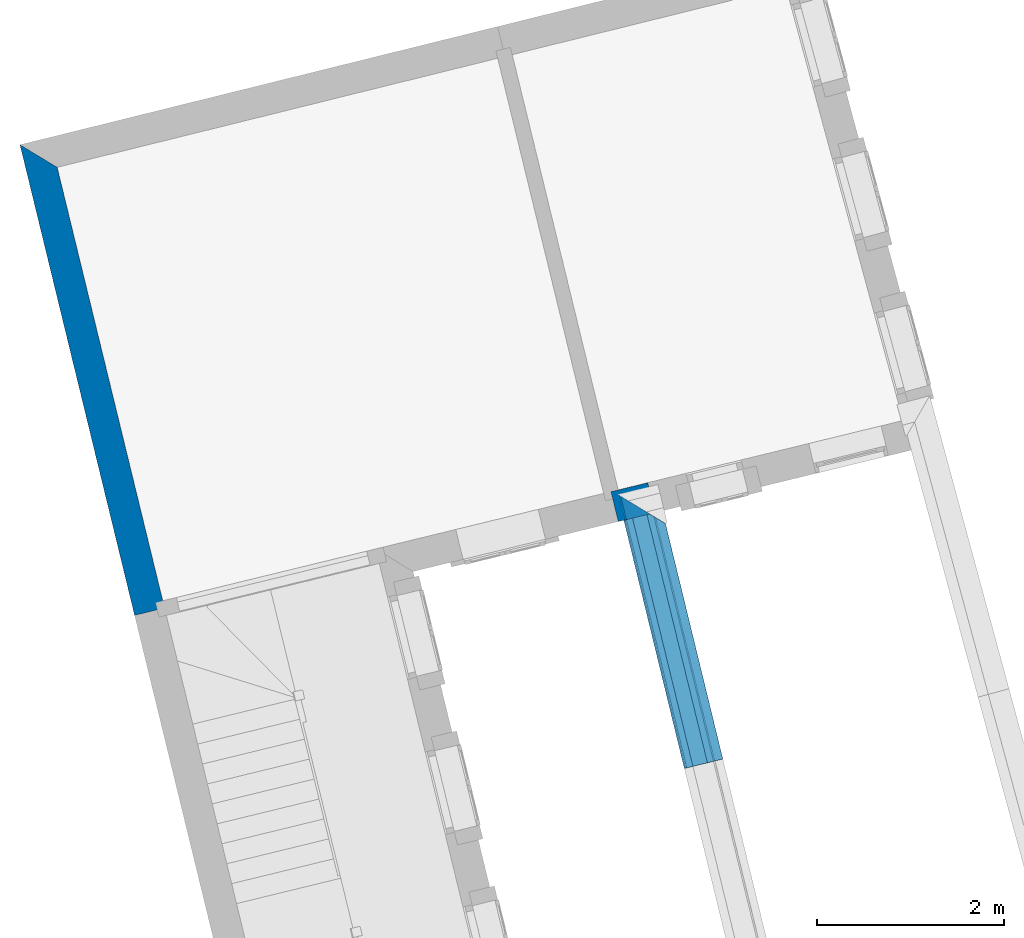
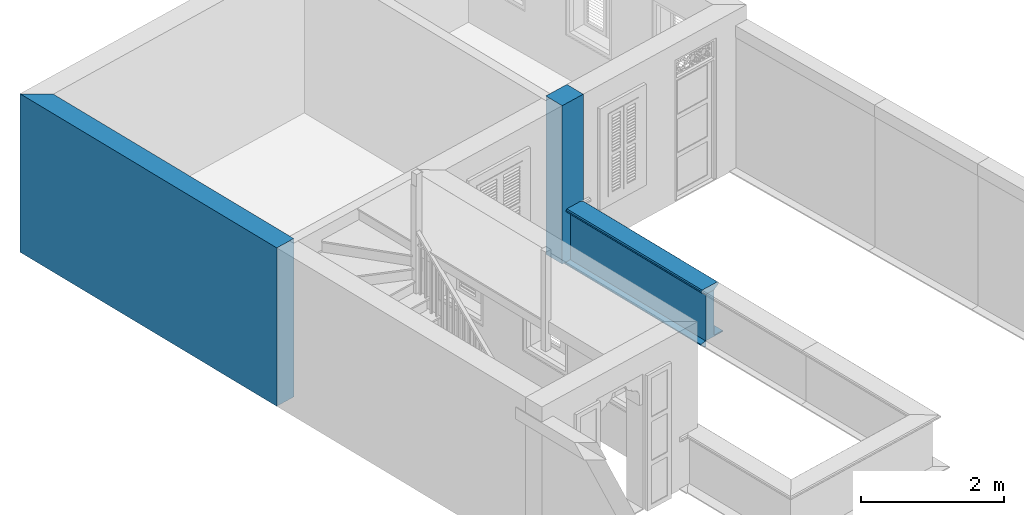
# One storey, part 5 of 9: 5 walls.
"""IFC4 building model written with IfcOpenShell, lengths in metres."""

from ifc_helpers import new_model, si_unit, frame, origin_with_axes, place, context, subcontext, project, spatial, polyline, outline, extrude, clip, halfspace, material, layer, layer_set, layer_usage, material_profile, profile_set, profile_usage, type_object, element, save


model = new_model("IFC4")

# Units and contexts
model_context = context("Model", 3, world=origin_with_axes())
body_context = subcontext(model_context, "Body", "Model", "MODEL_VIEW")
ifc_project = project(units=[si_unit("PLANEANGLEUNIT", "RADIAN"), si_unit("MASSUNIT", "GRAM", prefix="KILO"), si_unit("FORCEUNIT", "NEWTON", prefix="KILO"), si_unit("LENGTHUNIT", "METRE"), si_unit("AREAUNIT", "SQUARE_METRE"), si_unit("VOLUMEUNIT", "CUBIC_METRE")], contexts=[model_context, model_context])

# Site, building, storey
site_placement = place(None, origin_with_axes())
site = spatial("IfcSite", under=ifc_project, at=site_placement, Name="Site plot-4", CompositionType="ELEMENT")
building_placement = place(None, origin_with_axes())
building = spatial("IfcBuilding", under=site, at=building_placement, Name="Building plot-4", CompositionType="ELEMENT")
storey_placement = place(None, frame((0.0, 0.0, 2.7), z_axis=(0.0, 0.0, 1.0), x_axis=(1.0, 0.0, 0.0)))
storey = spatial("IfcBuildingStorey", under=building, at=storey_placement, Name="plot-4 1", CompositionType="ELEMENT", Elevation=2.7)

# Walls
ifc_material_1 = material(Name="Masonry")
ifc_layer_1 = layer(ifc_material_1, 0.33, ventilated=False)
ifc_layer_set_1 = layer_set([ifc_layer_1], Name="exterior_0.08_0.25")
ifc_layer_usage_1 = layer_usage(ifc_layer_set_1, "AXIS2", "POSITIVE", -0.25)
wall_type_1 = type_object("IfcWallType", Name="exterior_0.08_0.25", PredefinedType="SOLIDWALL", material=ifc_layer_set_1)
wall_1_placement = place(storey_placement, frame((23.4069703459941, 15.6198881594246, 0.0), z_axis=(0.0, 0.0, 1.0), x_axis=(0.971605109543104, 0.236608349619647, 0.0)))
element("IfcWall", 1, at=wall_1_placement, inside=storey, type_object=wall_type_1, material=ifc_layer_usage_1, Name="exterior", context=body_context, shape_type="SweptSolid", body=[
    extrude(outline(polyline([(3.34444944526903e-15, 0.0799999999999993), (-1.1697544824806e-14, -0.249999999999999), (0.407279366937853, -0.25), (0.407279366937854, 0.0800000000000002), (3.34444944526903e-15, 0.0799999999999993)])), origin_with_axes(), (0.0, 0.0, 1.0), 2.7),
])
ifc_material_2 = material(Name="Masonry")
ifc_layer_2 = layer(ifc_material_2, 0.33, ventilated=False)
ifc_layer_set_2 = layer_set([ifc_layer_2], Name="party_0.08_0.25")
ifc_layer_usage_2 = layer_usage(ifc_layer_set_2, "AXIS2", "POSITIVE", -0.25)
wall_type_2 = type_object("IfcWallType", Name="party_0.08_0.25", PredefinedType="SOLIDWALL", material=ifc_layer_set_2)
wall_2_placement = place(storey_placement, frame((17.3563135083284, 19.233189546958, 0.0), z_axis=(0.0, 0.0, 1.0), x_axis=(0.236608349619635, -0.971605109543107, 0.0)))
element("IfcWall", 2, at=wall_2_placement, inside=storey, type_object=wall_type_2, material=ifc_layer_usage_2, Name="party", context=body_context, shape_type="SweptSolid", body=[
    extrude(outline(polyline([(0.0797005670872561, 0.0800000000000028), (-0.249064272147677, -0.250000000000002), (4.94233801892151, -0.25), (4.94233801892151, 0.0799999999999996), (0.0797005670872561, 0.0800000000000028)])), origin_with_axes(), (0.0, 0.0, 1.0), 2.7),
])
ifc_material_profile_1 = material_profile(None, outline(polyline([(0.25, 0.0), (0.25, 0.795), (0.09, 0.795), (0.09, 0.02), (-0.08, 0.02), (-0.08, 0.0), (0.25, 0.0)])))
ifc_profile_set_1 = profile_set([ifc_material_profile_1])
ifc_profile_usage_1 = profile_usage(ifc_profile_set_1)
wall_type_3 = type_object("IfcWallType", Name="parapet internal_0", PredefinedType="PARAPET", material=ifc_profile_set_1)
wall_3_placement = place(storey_placement, frame((24.7463891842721, 11.8410408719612, 0.0), z_axis=(-0.236608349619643, 0.971605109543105, 0.0), x_axis=(-0.971605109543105, -0.236608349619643, 0.0)))
element("IfcWall", 3, at=wall_3_placement, inside=storey, type_object=wall_type_3, material=ifc_profile_usage_1, Name="parapet internal_0", context=body_context, shape_type="Clipping", body=[
    clip(clip(extrude(outline(polyline([(0.25, 0.0), (0.25, 0.795), (0.09, 0.795), (0.09, 0.02), (-0.08, 0.02), (-0.08, 0.0), (0.25, 0.0)])), origin_with_axes(), (0.0, 0.0, 1.0), 4.67846501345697), halfspace(frame((0.0, 0.0, 3.67846501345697), z_axis=(0.707106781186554, 0.0, -0.707106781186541), x_axis=(0.0, 1.0, 0.0)), True)), halfspace(frame((0.0, 0.0, 1.0), z_axis=(1.60812264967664e-16, 0.0, -1.0), x_axis=(0.0, 1.0, 0.0)), False)),
])
ifc_material_profile_2 = material_profile(None, outline(polyline([(0.265, 0.795), (0.268, 0.807), (0.274, 0.816), (0.283, 0.822), (0.295, 0.825), (0.295, 0.84), (0.305, 0.84), (0.317, 0.842), (0.326, 0.849), (0.333, 0.858), (0.335, 0.87), (0.333, 0.882), (0.326, 0.891), (0.317, 0.898), (0.305, 0.9), (0.035, 0.9), (0.023, 0.898), (0.014, 0.891), (0.007, 0.882), (0.005, 0.87), (0.007, 0.858), (0.014, 0.849), (0.023, 0.842), (0.035, 0.84), (0.045, 0.84), (0.045, 0.825), (0.057, 0.822), (0.066, 0.816), (0.072, 0.807), (0.075, 0.795), (0.265, 0.795)])))
ifc_profile_set_2 = profile_set([ifc_material_profile_2])
ifc_profile_usage_2 = profile_usage(ifc_profile_set_2)
wall_type_4 = type_object("IfcWallType", Name="parapet internal_1", PredefinedType="PARAPET", material=ifc_profile_set_2)
wall_4_placement = place(storey_placement, frame((24.7463891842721, 11.8410408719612, 0.0), z_axis=(-0.236608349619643, 0.971605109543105, 0.0), x_axis=(-0.971605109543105, -0.236608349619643, 0.0)))
element("IfcWall", 4, at=wall_4_placement, inside=storey, type_object=wall_type_4, material=ifc_profile_usage_2, Name="parapet internal_1", context=body_context, shape_type="Clipping", body=[
    clip(clip(extrude(outline(polyline([(0.265, 0.795), (0.268, 0.807), (0.274, 0.816), (0.283, 0.822), (0.295, 0.825), (0.295, 0.84), (0.305, 0.84), (0.317, 0.842), (0.326, 0.849), (0.333, 0.858), (0.335, 0.87), (0.333, 0.882), (0.326, 0.891), (0.317, 0.898), (0.305, 0.9), (0.035, 0.9), (0.023, 0.898), (0.014, 0.891), (0.007, 0.882), (0.005, 0.87), (0.007, 0.858), (0.014, 0.849), (0.023, 0.842), (0.035, 0.84), (0.045, 0.84), (0.045, 0.825), (0.057, 0.822), (0.066, 0.816), (0.072, 0.807), (0.075, 0.795), (0.265, 0.795)])), origin_with_axes(), (0.0, 0.0, 1.0), 4.67846501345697), halfspace(frame((0.0, 0.0, 3.67846501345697), z_axis=(0.707106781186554, 0.0, -0.707106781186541), x_axis=(0.0, 1.0, 0.0)), True)), halfspace(frame((0.0, 0.0, 1.0), z_axis=(1.60812264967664e-16, 0.0, -1.0), x_axis=(0.0, 1.0, 0.0)), False)),
])
ifc_material_profile_3 = material_profile(None, outline(polyline([(0.25, -0.1), (0.265, -0.1), (0.265, -0.085), (0.278, -0.084), (0.289, -0.081), (0.301, -0.074), (0.309, -0.065), (0.315, -0.055), (0.324, -0.044), (0.334, -0.038), (0.345, -0.035), (0.345, -0.015), (0.25, 0.0), (0.25, -0.1)])))
ifc_profile_set_3 = profile_set([ifc_material_profile_3])
ifc_profile_usage_3 = profile_usage(ifc_profile_set_3)
wall_type_5 = type_object("IfcWallType", Name="parapet internal_2", PredefinedType="PARAPET", material=ifc_profile_set_3)
wall_5_placement = place(storey_placement, frame((24.7463891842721, 11.8410408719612, 0.0), z_axis=(-0.236608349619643, 0.971605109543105, 0.0), x_axis=(-0.971605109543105, -0.236608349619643, 0.0)))
element("IfcWall", 5, at=wall_5_placement, inside=storey, type_object=wall_type_5, material=ifc_profile_usage_3, Name="parapet internal_2", context=body_context, shape_type="Clipping", body=[
    clip(clip(extrude(outline(polyline([(0.25, -0.1), (0.265, -0.1), (0.265, -0.085), (0.278, -0.084), (0.289, -0.081), (0.301, -0.074), (0.309, -0.065), (0.315, -0.055), (0.324, -0.044), (0.334, -0.038), (0.345, -0.035), (0.345, -0.015), (0.25, 0.0), (0.25, -0.1)])), origin_with_axes(), (0.0, 0.0, 1.0), 4.67846501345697), halfspace(frame((0.0, 0.0, 3.67846501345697), z_axis=(0.707106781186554, 0.0, -0.707106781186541), x_axis=(0.0, 1.0, 0.0)), True)), halfspace(frame((0.0, 0.0, 1.0), z_axis=(1.60812264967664e-16, 0.0, -1.0), x_axis=(0.0, 1.0, 0.0)), False)),
])

save(model, "model.ifc")
